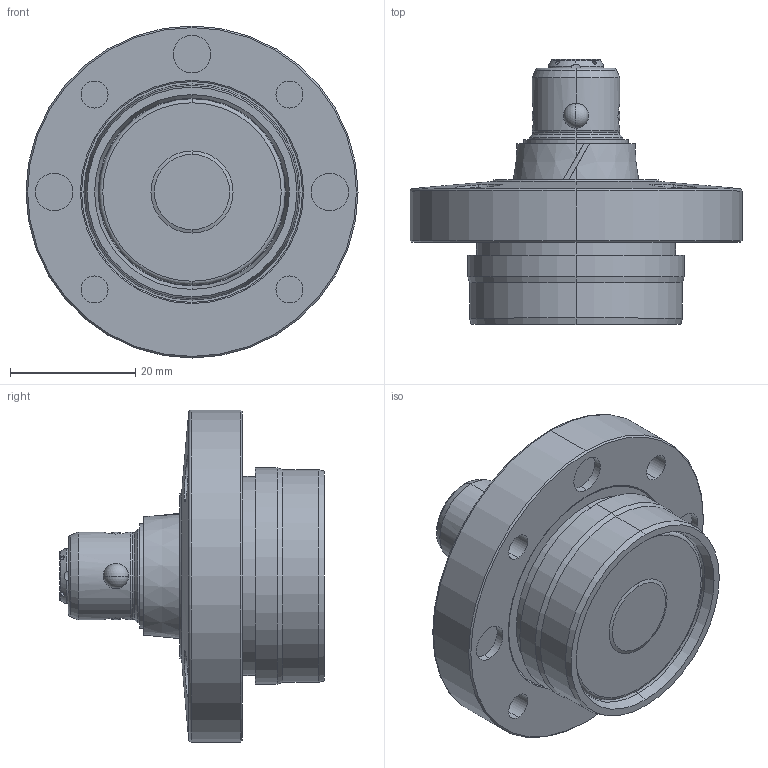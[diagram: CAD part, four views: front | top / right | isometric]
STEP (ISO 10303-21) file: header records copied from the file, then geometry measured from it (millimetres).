
FILE_DESCRIPTION (( 'STEP AP203' ), '1' );
FILE_NAME ('SWT0010-MD.step', '2010-08-04T09:04:00', ( ' ' ), ( ' ' ), 'SwSTEP 2.0', 'SolidWorks 2010', '' );
FILE_SCHEMA (( 'CONFIG_CONTROL_DESIGN' ));
Length unit declared in the file: millimetre
Products named in the file (8): 4SW100085; FRS-15S; 鋼球_4; SWT0010-MD; 4SW100089; 4SW100090; 4SW100175; 6妏寠晅无倌_M4_10
Assembly tree (13 placements, depth 2):
  SWT0010-MD
    FRS-15S
    6妏寠晅无倌_M4_10  x4
    鋼球_4  x4
    4SW100085
    4SW100090
    4SW100175
    4SW100089
Bounding box: 53 x 42.3 x 53 mm (x, y, z)
Volume: 32433.4 mm3; surface area: 15215.5 mm2
Topology: 14 solids, 14 shells, 303 faces, 642 edges, 369 vertices
Faces by surface type: cylinder 108, plane 94, cone 77, torus 16, sphere 8
Entity records: 7675 total; most frequent: CARTESIAN_POINT 1795, DIRECTION 1103, ORIENTED_EDGE 964, EDGE_CURVE 482, AXIS2_PLACEMENT_3D 474, VERTEX_POINT 294, EDGE_LOOP 258, CIRCLE 239
